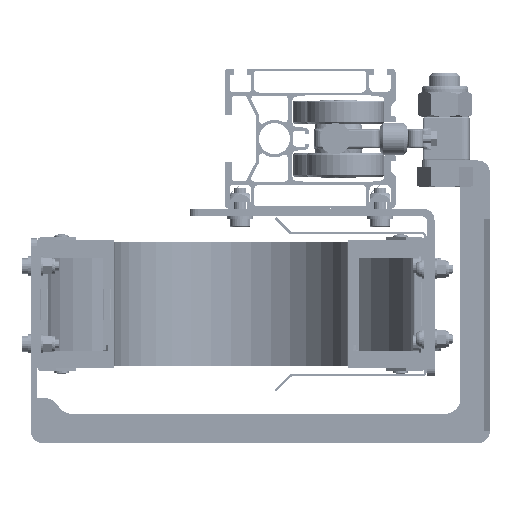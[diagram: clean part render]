
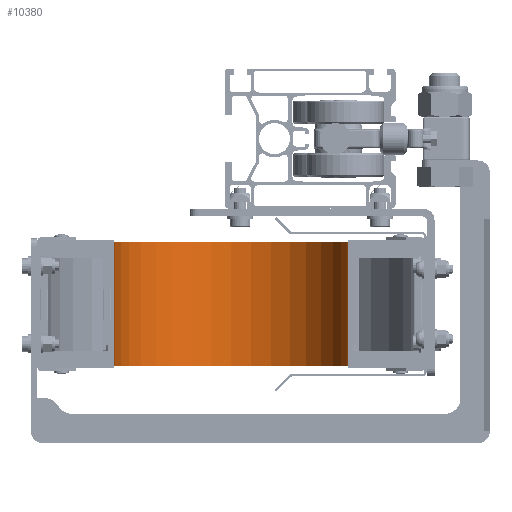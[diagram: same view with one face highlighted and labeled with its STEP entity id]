
A CAD part, left-side view. The second image highlights one B-rep face of the part: STEP entity #10380.
In plain terms, the highlighted cylindrical face has radius 75.5 mm (diameter 151 mm), a partial arc.
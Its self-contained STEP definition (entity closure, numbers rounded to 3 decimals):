
#4446 = CARTESIAN_POINT ( 'NONE',  ( 0., -100., -40. ) ) ;
#10380 = ADVANCED_FACE ( 'NONE', ( #89524 ), #174535, .F. ) ;
#17030 = VERTEX_POINT ( 'NONE', #175417 ) ;
#17999 = CARTESIAN_POINT ( 'NONE',  ( 0., -175.5, 40. ) ) ;
#19926 = CARTESIAN_POINT ( 'NONE',  ( 0., -175.5, 0. ) ) ;
#23220 = CARTESIAN_POINT ( 'NONE',  ( 0., -100., 40. ) ) ;
#25505 = DIRECTION ( 'NONE',  ( 0., 0., 1. ) ) ;
#30827 = AXIS2_PLACEMENT_3D ( 'NONE', #23220, #128764, #143952 ) ;
#35303 = CARTESIAN_POINT ( 'NONE',  ( 0., -24.5, -40. ) ) ;
#40096 = ORIENTED_EDGE ( 'NONE', *, *, #63756, .F. ) ;
#61781 = AXIS2_PLACEMENT_3D ( 'NONE', #4446, #123803, #125725 ) ;
#63756 = EDGE_CURVE ( 'NONE', #65590, #75860, #116237, .T. ) ;
#65590 = VERTEX_POINT ( 'NONE', #127503 ) ;
#71400 = VECTOR ( 'NONE', #138065, 1000. ) ;
#75860 = VERTEX_POINT ( 'NONE', #17999 ) ;
#81607 = ORIENTED_EDGE ( 'NONE', *, *, #88342, .F. ) ;
#84232 = CARTESIAN_POINT ( 'NONE',  ( 0., -100., 0. ) ) ;
#88342 = EDGE_CURVE ( 'NONE', #75860, #17030, #96995, .T. ) ;
#89524 = FACE_OUTER_BOUND ( 'NONE', #113875, .T. ) ;
#96995 = CIRCLE ( 'NONE', #30827, 75.5 ) ;
#113875 = EDGE_LOOP ( 'NONE', ( #119696, #148297, #81607, #40096 ) ) ;
#116237 = LINE ( 'NONE', #19926, #71400 ) ;
#119696 = ORIENTED_EDGE ( 'NONE', *, *, #122343, .F. ) ;
#122343 = EDGE_CURVE ( 'NONE', #152498, #65590, #184299, .T. ) ;
#123803 = DIRECTION ( 'NONE',  ( 0., 0., 1. ) ) ;
#125725 = DIRECTION ( 'NONE',  ( 1., 0., 0. ) ) ;
#127503 = CARTESIAN_POINT ( 'NONE',  ( 0., -175.5, -40. ) ) ;
#128764 = DIRECTION ( 'NONE',  ( 0., 0., -1. ) ) ;
#138065 = DIRECTION ( 'NONE',  ( 0., 0., 1. ) ) ;
#143952 = DIRECTION ( 'NONE',  ( 1., 0., 0. ) ) ;
#148297 = ORIENTED_EDGE ( 'NONE', *, *, #174136, .F. ) ;
#152498 = VERTEX_POINT ( 'NONE', #35303 ) ;
#167211 = LINE ( 'NONE', #192365, #193099 ) ;
#174136 = EDGE_CURVE ( 'NONE', #17030, #152498, #167211, .T. ) ;
#174535 = CYLINDRICAL_SURFACE ( 'NONE', #175304, 75.5 ) ;
#175304 = AXIS2_PLACEMENT_3D ( 'NONE', #84232, #25505, #176568 ) ;
#175417 = CARTESIAN_POINT ( 'NONE',  ( 0., -24.5, 40. ) ) ;
#176568 = DIRECTION ( 'NONE',  ( 1., 0., 0. ) ) ;
#184299 = CIRCLE ( 'NONE', #61781, 75.5 ) ;
#192365 = CARTESIAN_POINT ( 'NONE',  ( 0., -24.5, 0. ) ) ;
#193099 = VECTOR ( 'NONE', #194966, 1000. ) ;
#194966 = DIRECTION ( 'NONE',  ( 0., 0., -1. ) ) ;
